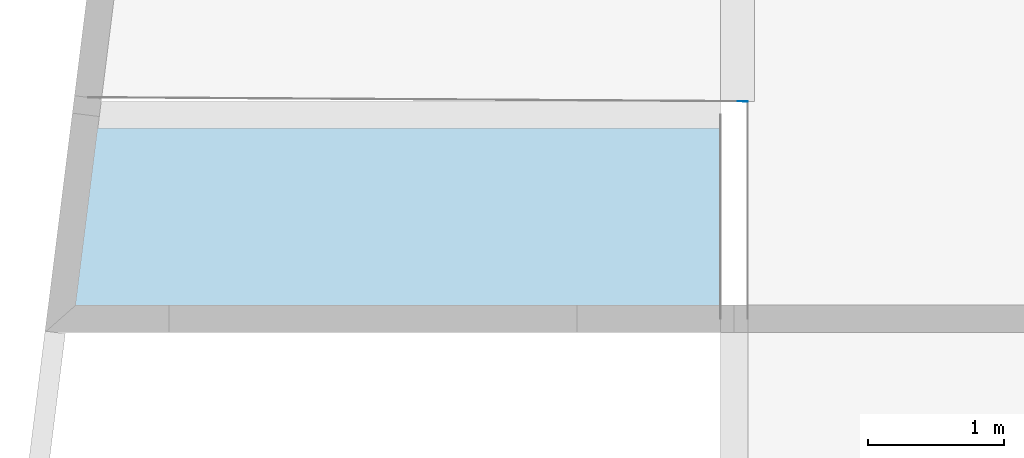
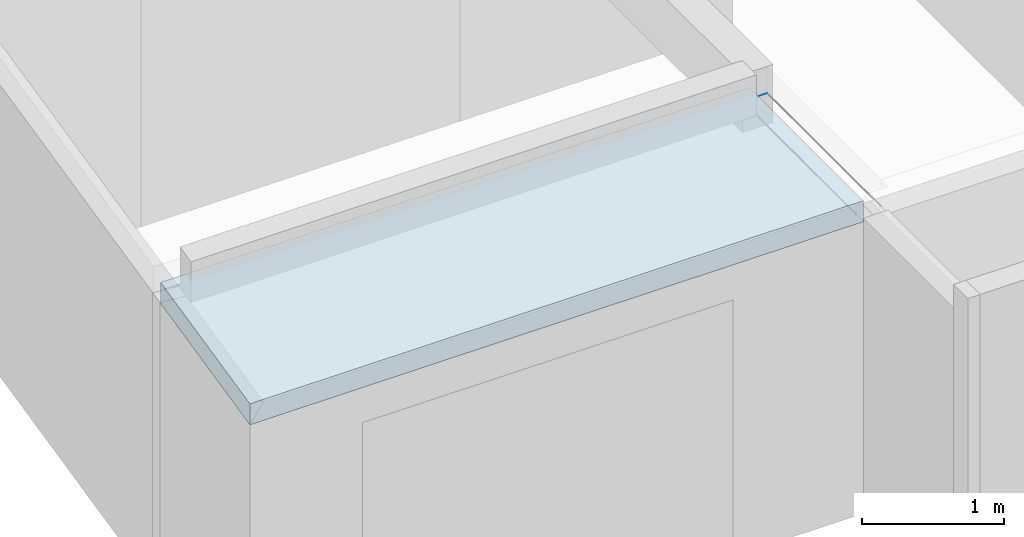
# One storey, part 3 of 8: 1 beam, 1 slab.
"""IFC2X3 building model written with IfcOpenShell, lengths in metres."""

import ifcopenshell
import ifcopenshell.guid

model = None  # the IFC model being written
_history = None  # IfcOwnerHistory: only IFC2X3 demands one
_inside = {}  # id of a spatial element -> (the spatial element, [elements in it])
_under = {}  # id of a project, library or spatial element -> (it, [spatial elements below it])
_declared = {}  # id of a project -> (the project, [libraries it declares])
_typed = {}  # id of a type object -> (the type object, [elements of that type])
_made_of = {}  # id of a material, layer set ... -> (it, [elements and type objects made of it])


def new_model(schema):
    """Start an empty IFC model of exactly this schema.

    Asked for "IFC4X3", IfcOpenShell would pick the latest addendum, in which some entities
    have other attributes; the version numbers below select the first issue.
    IFC2X3 requires an IfcOwnerHistory on every rooted entity: one is made here for all.
    """
    global model, _history
    if schema == "IFC4X3":
        model = ifcopenshell.file(schema_version=(4, 3, 0, 0))
    else:
        model = ifcopenshell.file(schema=schema)
    _inside.clear()
    _under.clear()
    _declared.clear()
    _typed.clear()
    _made_of.clear()
    _history = None
    if model.schema == "IFC2X3":
        org = make("IfcOrganization", Name="unknown")
        user = make(
            "IfcPersonAndOrganization",
            ThePerson=make("IfcPerson", FamilyName="unknown"),
            TheOrganization=org,
        )
        app = make(
            "IfcApplication",
            ApplicationDeveloper=org,
            Version="unknown",
            ApplicationFullName="unknown",
            ApplicationIdentifier="unknown",
        )
        _history = make(
            "IfcOwnerHistory",
            OwningUser=user,
            OwningApplication=app,
            ChangeAction="ADDED",
            CreationDate=0,
        )
    return model


def make(cls, **values):
    """One entity of the class cls with the attributes given. An attribute that is None is left unset."""
    return model.create_entity(
        cls, **{name: value for name, value in values.items() if value is not None}
    )


def rooted(cls, **values):
    """An entity with a GlobalId (a new one), such as an element, a storey or a relation."""
    return make(cls, GlobalId=ifcopenshell.guid.new(), OwnerHistory=_history, **values)


def si_unit(unit_type, name, prefix=None):
    """IfcSIUnit, for example si_unit("LENGTHUNIT", "METRE", prefix="MILLI")."""
    return make("IfcSIUnit", UnitType=unit_type, Prefix=prefix, Name=name)


def assignment(units):
    """IfcUnitAssignment: the units of a project."""
    return None if units is None else make("IfcUnitAssignment", Units=units)


def point(xyz):
    """IfcCartesianPoint."""
    return None if xyz is None else make("IfcCartesianPoint", Coordinates=xyz)


def direction(xyz):
    """IfcDirection."""
    return None if xyz is None else make("IfcDirection", DirectionRatios=xyz)


def frame(location, z_axis=None, x_axis=None):
    """IfcAxis2Placement3D, a coordinate frame: its origin and axes. An axis left out is left unset."""
    return make(
        "IfcAxis2Placement3D",
        Location=point(location),
        Axis=direction(z_axis),
        RefDirection=direction(x_axis),
    )


def origin_with_axes():
    """The frame at (0, 0, 0) with the z axis (0, 0, 1) and the x axis (1, 0, 0) written out."""
    return frame((0.0, 0.0, 0.0), z_axis=(0.0, 0.0, 1.0), x_axis=(1.0, 0.0, 0.0))


def place(relative_to, where):
    """IfcLocalPlacement: puts the frame where relative to a parent placement (None: the world)."""
    return make(
        "IfcLocalPlacement", PlacementRelTo=relative_to, RelativePlacement=where
    )


def context(
    kind, dimensions, precision=None, world=None, true_north=None, identifier=None
):
    """IfcGeometricRepresentationContext, for example the 3D "Model" context."""
    return make(
        "IfcGeometricRepresentationContext",
        ContextIdentifier=identifier,
        ContextType=kind,
        CoordinateSpaceDimension=dimensions,
        Precision=precision,
        WorldCoordinateSystem=world,
        TrueNorth=true_north,
    )


def subcontext(parent, identifier, kind, view, scale=None):
    """IfcGeometricRepresentationSubContext, for example "Body" below "Model"."""
    return make(
        "IfcGeometricRepresentationSubContext",
        ContextIdentifier=identifier,
        ContextType=kind,
        ParentContext=parent,
        TargetScale=scale,
        TargetView=view,
    )


def project(units=None, contexts=None):
    """IfcProject with its units and contexts."""
    return rooted(
        "IfcProject",
        Name="project",
        RepresentationContexts=contexts,
        UnitsInContext=assignment(units),
    )


def spatial(cls, under=None, at=None, **own):
    """A site, building, storey or space (cls), placed at a placement, below another one or the project."""
    s = rooted(cls, ObjectPlacement=at, **own)
    if under is not None:
        _under.setdefault(under.id(), (under, []))[1].append(s)
    return s


def polyline(points):
    """IfcPolyline through the points."""
    return make("IfcPolyline", Points=[point(p) for p in points])


def outline(outer, holes=None, kind="AREA"):
    """IfcArbitraryClosedProfileDef: a profile drawn as a closed curve; with holes, ...WithVoids."""
    if holes is None:
        return make("IfcArbitraryClosedProfileDef", ProfileType=kind, OuterCurve=outer)
    return make(
        "IfcArbitraryProfileDefWithVoids",
        ProfileType=kind,
        OuterCurve=outer,
        InnerCurves=holes,
    )


def extrude(swept, where, along, depth):
    """IfcExtrudedAreaSolid: the profile swept, set in the frame where, extruded along a direction by depth."""
    return make(
        "IfcExtrudedAreaSolid",
        SweptArea=swept,
        Position=where,
        ExtrudedDirection=direction(along),
        Depth=depth,
    )


def shape(context_of_items, identifier, shape_type, items):
    """IfcShapeRepresentation: the items that make up one representation, for example the "Body"."""
    return make(
        "IfcShapeRepresentation",
        ContextOfItems=context_of_items,
        RepresentationIdentifier=identifier,
        RepresentationType=shape_type,
        Items=items,
    )


def material(Name=None, Category=None):
    """IfcMaterial."""
    return make("IfcMaterial", Name=Name, Category=Category)


def made_of(thing, what):
    """Note that an element or type object is made of a material, layer set ...; save() writes the relation."""
    if what is not None:
        _made_of.setdefault(what.id(), (what, []))[1].append(thing)
    return thing


def type_object(cls, material=None, **own):
    """A type object (cls), such as IfcWallType, which elements share."""
    return made_of(rooted(cls, **own), material)


def element(
    cls,
    number,
    at=None,
    inside=None,
    cuts=None,
    type_object=None,
    material=None,
    context=None,
    identifier="Body",
    shape_type=None,
    held_by="IfcProductDefinitionShape",
    body=None,
    shapes=None,
    **own,
):
    """One element of the class cls, such as IfcWall. Its Tag is "e" and its number.

    at: its placement. inside: the storey or other place that contains it. cuts: it is an
    opening in that element (IfcRelVoidsElement). A single representation is given by context,
    identifier, shape_type and body (its items); several are given by shapes. held_by: the class
    of the entity that holds the representations. save() writes the other relations.
    """
    e = rooted(cls, Tag="e%d" % number, ObjectPlacement=at, **own)
    if body is not None:
        shapes = [shape(context, identifier, shape_type, body)]
    if shapes is not None:
        e.Representation = make(held_by, Representations=shapes)
    if inside is not None:
        _inside.setdefault(inside.id(), (inside, []))[1].append(e)
    if cuts is not None:
        rooted(
            "IfcRelVoidsElement", RelatingBuildingElement=cuts, RelatedOpeningElement=e
        )
    if type_object is not None:
        _typed.setdefault(type_object.id(), (type_object, []))[1].append(e)
    return made_of(e, material)


def aggregate(whole, parts):
    """IfcRelAggregates: a whole, such as a stair, and the parts it consists of."""
    return rooted("IfcRelAggregates", RelatingObject=whole, RelatedObjects=parts)


def save(model, path):
    """Write the relations noted so far, then the file.

    IfcRelAggregates (storeys below a building ...), IfcRelContainedInSpatialStructure (elements
    in a storey), IfcRelDefinesByType, IfcRelAssociatesMaterial and IfcRelDeclares: one each for
    every whole, place, type object, material and project.
    """
    for whole, parts in _under.values():
        aggregate(whole, parts)
    for where, things in _inside.values():
        rooted(
            "IfcRelContainedInSpatialStructure",
            RelatedElements=things,
            RelatingStructure=where,
        )
    for kind, things in _typed.values():
        rooted("IfcRelDefinesByType", RelatedObjects=things, RelatingType=kind)
    for what, things in _made_of.values():
        rooted("IfcRelAssociatesMaterial", RelatedObjects=things, RelatingMaterial=what)
    for by, libraries in _declared.values():
        rooted("IfcRelDeclares", RelatingContext=by, RelatedDefinitions=libraries)
    model.write(path)


model = new_model("IFC2X3")

# Units and contexts
model_context = context("Model", 3, precision=0.0001, world=origin_with_axes(), true_north=direction((0.0, 1.0)))
plan_context = context("Plan", 2, precision=0.0001, world=origin_with_axes(), true_north=direction((0.0, 1.0)))
body_context = subcontext(model_context, "Body", "Model", "MODEL_VIEW")
ifc_project = project(units=[si_unit("MASSUNIT", "GRAM", prefix="KILO"), si_unit("AREAUNIT", "SQUARE_METRE"), si_unit("LENGTHUNIT", "METRE"), si_unit("VOLUMEUNIT", "CUBIC_METRE")], contexts=[plan_context, model_context])

# Site, building, storey
site_placement = place(None, origin_with_axes())
site = spatial("IfcSite", under=ifc_project, at=site_placement, Name="$", CompositionType="ELEMENT")
building_placement = place(site_placement, origin_with_axes())
building = spatial("IfcBuilding", under=site, at=building_placement, Name="Classeur ENS Ensemble", CompositionType="ELEMENT")
storey_placement = place(building_placement, frame((-20.30778888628, -1.812671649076, 3.3), z_axis=(0.0, 0.0, 1.0), x_axis=(1.0, 0.0, 0.0)))
storey = spatial("IfcBuildingStorey", under=building, at=storey_placement, Name="002 R+1", CompositionType="ELEMENT", Elevation=3.3)

# Beam
ifc_material = material(Name="Default material")
beam_type = type_object("IfcBeamType", PredefinedType="BEAM")
beam_placement = place(storey_placement, frame((23.73839579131, -9.966870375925, 2.5), z_axis=(0.0, 0.0, 1.0), x_axis=(0.9999816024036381, -0.006065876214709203, 0.0)))
element("IfcBeam", 1, at=beam_placement, inside=storey, type_object=beam_type, material=ifc_material, Name="poutre fictive 250", context=body_context, shape_type="SweptSolid", held_by="IfcProductRepresentation", body=[
    extrude(outline(polyline([(2.614413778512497e-15, 0.0009999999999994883), (2.614413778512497e-15, 0.0009999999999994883), (2.614413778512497e-15, 0.0009999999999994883), (0.07500138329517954, 0.0009999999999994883), (0.07500138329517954, 0.0009999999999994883), (0.07500138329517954, 0.0009999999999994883), (0.07500138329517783, -0.0009999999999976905), (0.07500138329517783, -0.0009999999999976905), (0.07500138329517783, -0.0009999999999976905), (9.382346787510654e-16, -0.0009999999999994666), (9.382346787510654e-16, -0.0009999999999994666), (9.382346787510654e-16, -0.0009999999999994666), (2.614413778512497e-15, 0.0009999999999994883)])), origin_with_axes(), (0.0, 0.0, 1.0), 0.001),
])

# Slab
slab_placement = place(storey_placement, frame((18.64093183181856, -11.6673253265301, 2.5), z_axis=(0.0, 0.0, 1.0), x_axis=(1.0, 0.0, 0.0)))
element("IfcSlab", 2, at=slab_placement, inside=storey, material=ifc_material, Name="Dalle BA 18 cm", PredefinedType="FLOOR", context=body_context, shape_type="SweptSolid", held_by="IfcProductRepresentation", body=[
    extrude(outline(polyline([(0.0, 0.0), (0.2003896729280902, -1.60110904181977), (4.972463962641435, -1.600000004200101), (4.972463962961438, -1.97215226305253e-31), (4.972463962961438, -1.97215226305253e-31), (0.0, 0.0)])), frame((0.0, 0.0, 0.0), z_axis=(0.0, 0.0, -1.0), x_axis=(1.0, 3.572387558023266e-16, 0.0)), (0.0, 0.0, -1.0), 0.1800000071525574),
])

save(model, "model.ifc")
